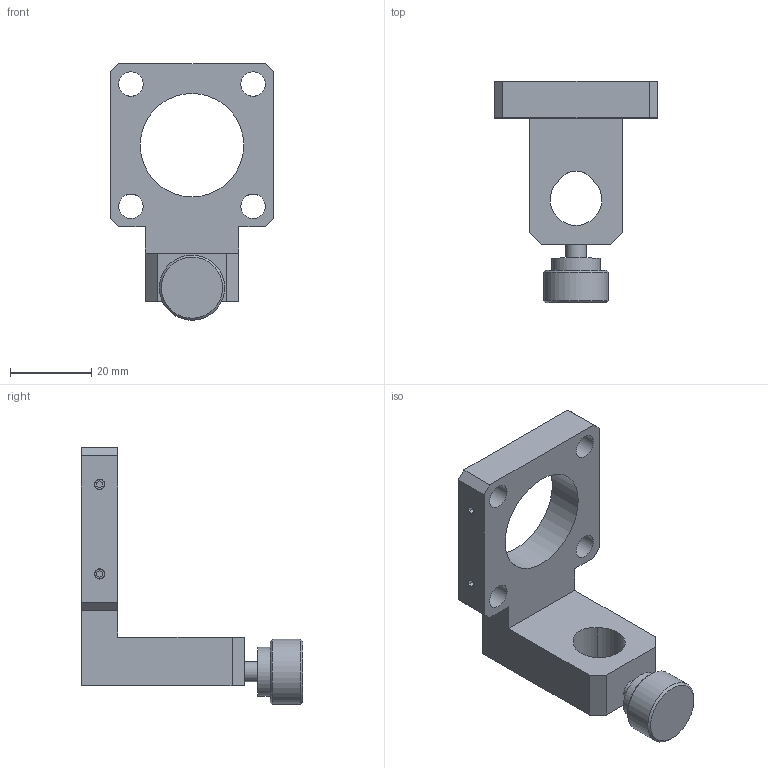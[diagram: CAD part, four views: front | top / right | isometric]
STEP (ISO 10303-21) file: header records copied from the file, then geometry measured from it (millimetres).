
FILE_DESCRIPTION(/* description */ (''),/* implementation_level */ '2;1');
FILE_NAME(/* name */ 'Y:\2_OpticalHard\08_Cage Systems\C30ｼﾘｰｽﾞ\C30-RMP-12.7-20\20180820_中間ﾌｧｲﾙ\C30-RMP-12.7-20.stp',/* time_stamp */ '2018-08-20T14:14:25+09:00',/* author */ ('e.nonaka'),/* organization */ (''),/* preprocessor_version */ 'ST-DEVELOPER v17',/* originating_system */ 'Autodesk Inventor 2018',/* authorisation */ '');
FILE_SCHEMA (('AUTOMOTIVE_DESIGN { 1 0 10303 214 3 1 1 }'));
Length unit declared in the file: millimetre
Products named in the file (1): C30RMP12.720-M02-18001-TS01
Bounding box: 40 x 54.35 x 63 mm (x, y, z)
Volume: 21309 mm3; surface area: 9428.5 mm2
Topology: 1 solids, 1 shells, 92 faces, 243 edges, 167 vertices
Faces by surface type: plane 58, cylinder 20, cone 14
Full cylindrical faces by diameter (mm): 2.5 x8, 5 x1, 6 x4, 12 x1, 16 x1, 25.4 x1
Entity records: 3215 total; most frequent: CARTESIAN_POINT 706, DIRECTION 490, ORIENTED_EDGE 482, EDGE_CURVE 241, VERTEX_POINT 169, AXIS2_PLACEMENT_3D 167, LINE 156, VECTOR 156
